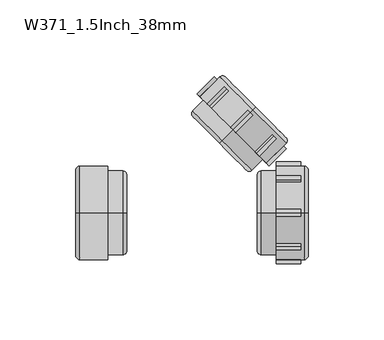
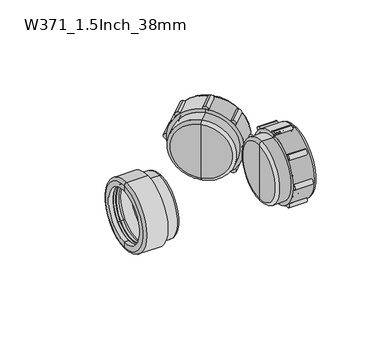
"""IFC4 building model written with IfcOpenShell, lengths in millimetres: pipe fitting geometry, Durapipe_PipeFitting_VulcatheneMechanical_SingleWye_W37 : W371_1.5Inch_38mm."""

from ifc_helpers import new_model, si_unit, point, frame, frame_2d, origin, place, context, project, spatial, polyline, circle_curve, ellipse_curve, trimmed, segment, composite_curve, outline, extrude, source, transform, mapped, element, save
from ifc_brep_helpers import plane_surface, cylinder_surface, revolved_surface, advanced_brep


def w371_1_5inch_38mm_248ea1dd(model_context):
    return source(origin(), model_context, "Body", "SolidModel", [
        advanced_brep(
        [(79.6180374, 53.3180374, -18.5969083), (78.5680374, 54.3680374, -17.1119841), (54.3680374, 78.5680374, 17.1119841), (53.3180374, 79.6180374, 18.5969083), (75.8825035, 49.9825035, -18.3140656), (49.9825035, 75.8825035, 18.3140656), (74.6718434, 49.0718434, -18.1019336), (75.7325035, 50.1325035, -18.1019336), (50.1325035, 75.7325035, 18.1019336), (49.0718434, 74.6718434, 18.1019336), (49.7718434, 73.9718434, 17.1119841), (73.9718434, 49.7718434, -17.1119841), (51.1860569, 75.3860569, 17.1119841), (75.3860569, 51.1860569, -17.1119841), (51.5860569, 74.9860569, 16.5462987), (74.9860569, 51.5860569, -16.5462987), (77.0124025, 52.8124025, -17.1119841), (76.6124025, 53.2124025, -16.5462987), (53.2124025, 76.6124025, 16.5462987), (52.8124025, 77.0124025, 17.1119841)],
        [
            (0, 1),
            (1, 2, circle_curve(frame((66.4680374, 66.4680374, 0.0), z_axis=(-0.7071067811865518, -0.7071067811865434, 0.0), x_axis=(-0.4999999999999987, 0.500000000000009, 0.707106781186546)), 24.2)),
            (2, 3),
            (3, 0, circle_curve(frame((66.4680374, 66.4680374, 0.0), z_axis=(0.7071067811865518, 0.7071067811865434, 0.0), x_axis=(-0.4999999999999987, 0.500000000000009, 0.707106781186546)), 26.3)),
            (2, 1, circle_curve(frame((66.4680374, 66.4680374, 0.0), z_axis=(-0.7071067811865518, -0.7071067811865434, 0.0), x_axis=(-0.4999999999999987, 0.500000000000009, 0.707106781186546)), 24.2)),
            (0, 3, circle_curve(frame((66.4680374, 66.4680374, 0.0), z_axis=(0.7071067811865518, 0.7071067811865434, 0.0), x_axis=(-0.4999999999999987, 0.500000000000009, 0.707106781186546)), 26.3)),
            (4, 0),
            (3, 5),
            (5, 4, circle_curve(frame((62.9325035, 62.9325035, 0.0), z_axis=(0.7071067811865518, 0.7071067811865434, 0.0), x_axis=(-0.4999999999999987, 0.500000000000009, 0.707106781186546)), 25.9)),
            (4, 5, circle_curve(frame((62.9325035, 62.9325035, 0.0), z_axis=(0.7071067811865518, 0.7071067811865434, 0.0), x_axis=(-0.4999999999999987, 0.500000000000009, 0.707106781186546)), 25.9)),
            (6, 7),
            (7, 8, circle_curve(frame((62.9325035, 62.9325035, 0.0), z_axis=(-0.7071067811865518, -0.7071067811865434, 0.0), x_axis=(-0.4999999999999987, 0.500000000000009, 0.707106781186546)), 25.6)),
            (8, 9),
            (9, 6, circle_curve(frame((61.8718434, 61.8718434, 0.0), z_axis=(0.7071067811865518, 0.7071067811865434, 0.0), x_axis=(-0.4999999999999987, 0.500000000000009, 0.707106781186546)), 25.6)),
            (8, 7, circle_curve(frame((62.9325035, 62.9325035, 0.0), z_axis=(-0.7071067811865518, -0.7071067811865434, 0.0), x_axis=(-0.4999999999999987, 0.500000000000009, 0.707106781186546)), 25.6)),
            (6, 9, circle_curve(frame((61.8718434, 61.8718434, 0.0), z_axis=(0.7071067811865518, 0.7071067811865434, 0.0), x_axis=(-0.4999999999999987, 0.500000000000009, 0.707106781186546)), 25.6)),
            (9, 10),
            (10, 11, circle_curve(frame((61.8718434, 61.8718434, 0.0), z_axis=(0.7071067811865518, 0.7071067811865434, 0.0), x_axis=(-0.4999999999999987, 0.500000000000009, 0.707106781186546)), 24.2)),
            (11, 6),
            (11, 10, circle_curve(frame((61.8718434, 61.8718434, 0.0), z_axis=(0.7071067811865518, 0.7071067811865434, 0.0), x_axis=(-0.4999999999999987, 0.500000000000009, 0.707106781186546)), 24.2)),
            (10, 12),
            (12, 13, circle_curve(frame((63.2860569, 63.2860569, 0.0), z_axis=(0.7071067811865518, 0.7071067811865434, 0.0), x_axis=(-0.4999999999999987, 0.500000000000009, 0.707106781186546)), 24.2)),
            (13, 11),
            (13, 12, circle_curve(frame((63.2860569, 63.2860569, 0.0), z_axis=(0.7071067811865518, 0.7071067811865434, 0.0), x_axis=(-0.4999999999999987, 0.500000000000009, 0.707106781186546)), 24.2)),
            (12, 14),
            (14, 15, circle_curve(frame((63.2860569, 63.2860569, 0.0), z_axis=(0.7071067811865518, 0.7071067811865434, 0.0), x_axis=(-0.4999999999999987, 0.500000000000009, 0.707106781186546)), 23.4)),
            (15, 13),
            (15, 14, circle_curve(frame((63.2860569, 63.2860569, 0.0), z_axis=(0.7071067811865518, 0.7071067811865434, 0.0), x_axis=(-0.4999999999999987, 0.500000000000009, 0.707106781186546)), 23.4)),
            (16, 17),
            (17, 18, circle_curve(frame((64.9124025, 64.9124025, 0.0), z_axis=(-0.7071067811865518, -0.7071067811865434, 0.0), x_axis=(-0.4999999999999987, 0.500000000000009, 0.707106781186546)), 23.4)),
            (18, 19),
            (19, 16, circle_curve(frame((64.9124025, 64.9124025, 0.0), z_axis=(0.7071067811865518, 0.7071067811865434, 0.0), x_axis=(-0.4999999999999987, 0.500000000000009, 0.707106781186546)), 24.2)),
            (18, 17, circle_curve(frame((64.9124025, 64.9124025, 0.0), z_axis=(-0.7071067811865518, -0.7071067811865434, 0.0), x_axis=(-0.4999999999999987, 0.500000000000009, 0.707106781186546)), 23.4)),
            (16, 19, circle_curve(frame((64.9124025, 64.9124025, 0.0), z_axis=(0.7071067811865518, 0.7071067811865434, 0.0), x_axis=(-0.4999999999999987, 0.500000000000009, 0.707106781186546)), 24.2)),
            (1, 16),
            (19, 2),
            (14, 18),
            (17, 15),
            (5, 8),
            (7, 4),
        ],
        [
            plane_surface(frame((66.4680374, 66.4680374, 0.0), z_axis=(0.7071067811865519, 0.7071067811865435, 0.0), x_axis=(-0.4999999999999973, 0.5000000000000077, 0.7071067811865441))),
            revolved_surface(polyline([(53.3180374, 79.6180374, 18.5969083), (49.9825035, 75.8825035, 18.3140656)]), (70.0035713, 70.0035713, 0.0), (-0.7071067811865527, -0.7071067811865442, 0.0)),
            cylinder_surface(frame((60.4076687, 60.4076687, 0.0), z_axis=(-0.7071067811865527, -0.7071067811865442, 0.0), x_axis=(-0.4999999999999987, 0.500000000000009, 0.707106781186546)), 25.6),
            plane_surface(frame((61.8718434, 61.8718434, 0.0), z_axis=(-0.7071067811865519, -0.7071067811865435, 0.0), x_axis=(-0.4999999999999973, 0.5000000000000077, 0.7071067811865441))),
            revolved_surface(polyline([(49.77184339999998, 73.97184340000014, 17.111984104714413), (51.18605690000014, 75.38605690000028, 17.111984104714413)]), (59.4019258, 59.4019258, 0.0), (-0.7071067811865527, -0.7071067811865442, 0.0)),
            plane_surface(frame((63.2860569, 63.2860569, 0.0), z_axis=(-0.7071067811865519, -0.7071067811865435, 0.0), x_axis=(-0.4999999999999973, 0.5000000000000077, 0.7071067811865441))),
            plane_surface(frame((64.9124025, 64.9124025, 0.0), z_axis=(0.7071067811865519, 0.7071067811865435, 0.0), x_axis=(-0.4999999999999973, 0.5000000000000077, 0.7071067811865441))),
            revolved_surface(polyline([(52.81240249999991, 77.01240250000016, 17.111984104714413), (54.36803740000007, 78.5680374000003, 17.111984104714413)]), (70.0035713, 70.0035713, 0.0), (-0.7071067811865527, -0.7071067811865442, 0.0)),
            revolved_surface(polyline([(51.586056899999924, 74.98605690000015, 16.546298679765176), (53.21240250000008, 76.61240250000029, 16.546298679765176)]), (67.5755027, 67.5755027, 0.0), (-0.7071067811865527, -0.7071067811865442, 0.0)),
            plane_surface(frame((62.9325035, 62.9325035, 0.0), z_axis=(-0.7071067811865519, -0.7071067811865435, 0.0), x_axis=(-0.4999999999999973, 0.5000000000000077, 0.7071067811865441))),
        ],
        [
            (0, [[1, 2, 3, 4]]),
            (0, [[5, -1, 6, -3]]),
            (1, [[7, -4, 8, 9]]),
            (1, [[-8, -6, -7, 10]]),
            (2, [[11, 12, 13, 14]]),
            (2, [[15, -11, 16, -13]]),
            (3, [[17, 18, 19, -14]]),
            (3, [[-19, 20, -17, -16]]),
            (4, [[-18, 21, 22, 23]]),
            (4, [[24, -21, -20, -23]]),
            (5, [[25, 26, 27, -22]]),
            (5, [[-27, 28, -25, -24]]),
            (6, [[29, 30, 31, 32]]),
            (6, [[-31, 33, -29, 34]]),
            (7, [[35, -32, 36, -2]]),
            (7, [[-36, -34, -35, -5]]),
            (8, [[-26, 37, -30, 38]]),
            (8, [[-33, -37, -28, -38]]),
            (9, [[39, -12, 40, -9]]),
            (9, [[-40, -15, -39, -10]]),
        ],
    ),
        advanced_brep(
        [(54.6593542, 54.6593542, -31.0), (67.670119, 67.670119, -31.0), (67.670119, 67.670119, 31.0), (54.6593542, 54.6593542, 31.0), (54.6593542, 54.6593542, -27.7), (54.6593542, 54.6593542, 27.7), (69.4378859, 69.4378859, -28.5), (69.4378859, 69.4378859, -24.0), (69.4378859, 69.4378859, 24.0), (69.4378859, 69.4378859, 28.5), (66.4680374, 66.4680374, -26.0), (54.6593542, 54.6593542, -26.0), (54.6593542, 54.6593542, 26.0), (66.4680374, 66.4680374, 26.0), (66.4680374, 66.4680374, -24.0), (66.4680374, 66.4680374, 24.0), (47.5175757, 47.5175757, -27.7), (47.5175757, 47.5175757, 27.7), (45.7498087, 45.7498087, -25.2), (45.7498087, 45.7498087, 25.2), (45.7498087, 45.7498087, 0.0), (54.6593542, 54.6593542, 0.0)],
        [
            (0, 1),
            (1, 2, circle_curve(frame((67.670119, 67.670119, 0.0), z_axis=(-0.7071067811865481, -0.707106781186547, 0.0), x_axis=(0.0, 0.0, 1.0000000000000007)), 31.0)),
            (2, 3),
            (3, 0, circle_curve(frame((54.6593542, 54.6593542, 0.0), z_axis=(0.7071067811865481, 0.707106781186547, 0.0), x_axis=(0.0, 0.0, 1.0000000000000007)), 31.0)),
            (2, 1, circle_curve(frame((67.670119, 67.670119, 0.0), z_axis=(-0.7071067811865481, -0.707106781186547, 0.0), x_axis=(0.0, 0.0, 1.0000000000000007)), 31.0)),
            (0, 3, circle_curve(frame((54.6593542, 54.6593542, 0.0), z_axis=(0.7071067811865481, 0.707106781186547, 0.0), x_axis=(0.0, 0.0, 1.0000000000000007)), 31.0)),
            (4, 0),
            (3, 5),
            (5, 4, circle_curve(frame((54.6593542, 54.6593542, 0.0), z_axis=(0.7071067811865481, 0.707106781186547, 0.0), x_axis=(0.0, 0.0, 1.0000000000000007)), 27.7)),
            (4, 5, circle_curve(frame((54.6593542, 54.6593542, 0.0), z_axis=(0.7071067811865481, 0.707106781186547, 0.0), x_axis=(0.0, 0.0, 1.0000000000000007)), 27.7)),
            (6, 7),
            (7, 8, circle_curve(frame((69.4378859, 69.4378859, 0.0), z_axis=(-0.7071067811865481, -0.707106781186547, 0.0), x_axis=(0.0, 0.0, 1.0000000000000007)), 24.0)),
            (8, 9),
            (9, 6, circle_curve(frame((69.4378859, 69.4378859, 0.0), z_axis=(0.7071067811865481, 0.707106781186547, 0.0), x_axis=(0.0, 0.0, 1.0000000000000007)), 28.5)),
            (8, 7, circle_curve(frame((69.4378859, 69.4378859, 0.0), z_axis=(-0.7071067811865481, -0.707106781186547, 0.0), x_axis=(0.0, 0.0, 1.0000000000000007)), 24.0)),
            (6, 9, circle_curve(frame((69.4378859, 69.4378859, 0.0), z_axis=(0.7071067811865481, 0.707106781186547, 0.0), x_axis=(0.0, 0.0, 1.0000000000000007)), 28.5)),
            (1, 6, circle_curve(frame((67.670119, 67.670119, -28.5), z_axis=(0.7071067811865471, -0.7071067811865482, 0.0), x_axis=(0.7071067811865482, 0.7071067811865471, 0.0)), 2.5)),
            (9, 2, circle_curve(frame((67.670119, 67.670119, 28.5), z_axis=(0.7071067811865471, -0.7071067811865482, 0.0), x_axis=(0.7071067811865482, 0.7071067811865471, 0.0)), 2.5)),
            (10, 11),
            (11, 12, circle_curve(frame((54.6593542, 54.6593542, 0.0), z_axis=(-0.7071067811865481, -0.707106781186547, 0.0), x_axis=(0.0, 0.0, 1.0000000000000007)), 26.0)),
            (12, 13),
            (13, 10, circle_curve(frame((66.4680374, 66.4680374, 0.0), z_axis=(0.7071067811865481, 0.707106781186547, 0.0), x_axis=(0.0, 0.0, 1.0000000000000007)), 26.0)),
            (12, 11, circle_curve(frame((54.6593542, 54.6593542, 0.0), z_axis=(-0.7071067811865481, -0.707106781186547, 0.0), x_axis=(0.0, 0.0, 1.0000000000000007)), 26.0)),
            (10, 13, circle_curve(frame((66.4680374, 66.4680374, 0.0), z_axis=(0.7071067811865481, 0.707106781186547, 0.0), x_axis=(0.0, 0.0, 1.0000000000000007)), 26.0)),
            (14, 10),
            (13, 15),
            (15, 14, circle_curve(frame((66.4680374, 66.4680374, 0.0), z_axis=(0.7071067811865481, 0.707106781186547, 0.0), x_axis=(0.0, 0.0, 1.0000000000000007)), 24.0)),
            (14, 15, circle_curve(frame((66.4680374, 66.4680374, 0.0), z_axis=(0.7071067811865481, 0.707106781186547, 0.0), x_axis=(0.0, 0.0, 1.0000000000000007)), 24.0)),
            (7, 14),
            (15, 8),
            (16, 4),
            (5, 17),
            (17, 16, circle_curve(frame((47.5175757, 47.5175757, 0.0), z_axis=(0.7071067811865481, 0.707106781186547, 0.0), x_axis=(0.0, 0.0, 1.0000000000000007)), 27.7)),
            (16, 17, circle_curve(frame((47.5175757, 47.5175757, 0.0), z_axis=(0.7071067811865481, 0.707106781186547, 0.0), x_axis=(0.0, 0.0, 1.0000000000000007)), 27.7)),
            (18, 16, circle_curve(frame((47.5175757, 47.5175757, -25.2), z_axis=(0.7071067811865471, -0.7071067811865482, 0.0), x_axis=(0.7071067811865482, 0.7071067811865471, 0.0)), 2.5)),
            (17, 19, circle_curve(frame((47.5175757, 47.5175757, 25.2), z_axis=(0.7071067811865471, -0.7071067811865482, 0.0), x_axis=(0.7071067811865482, 0.7071067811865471, 0.0)), 2.5)),
            (19, 18, circle_curve(frame((45.7498087, 45.7498087, 0.0), z_axis=(0.7071067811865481, 0.707106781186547, 0.0), x_axis=(0.0, 0.0, 1.0000000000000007)), 25.2)),
            (18, 19, circle_curve(frame((45.7498087, 45.7498087, 0.0), z_axis=(0.7071067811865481, 0.707106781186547, 0.0), x_axis=(0.0, 0.0, 1.0000000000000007)), 25.2)),
            (20, 18),
            (19, 20),
            (11, 21),
            (21, 12),
        ],
        [
            cylinder_surface(frame((1173.0914358, 1173.0914358, 0.0), z_axis=(-0.7071067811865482, -0.7071067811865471, 0.0), x_axis=(0.0, 0.0, 1.0000000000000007)), 31.0),
            plane_surface(frame((54.6593542, 54.6593542, 0.0), z_axis=(-0.7071067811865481, -0.707106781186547, 0.0), x_axis=(0.0, 0.0, 1.0))),
            plane_surface(frame((69.4378859, 69.4378859, 0.0), z_axis=(0.7071067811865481, 0.707106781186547, 0.0), x_axis=(0.0, 0.0, 1.0))),
            revolved_surface(trimmed(ellipse_curve(frame((67.670119, 67.670119, 28.5), z_axis=(0.7071067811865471, -0.7071067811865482, 0.0), x_axis=(0.7071067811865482, 0.7071067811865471, 0.0)), 2.5, 2.5), [point((69.4378859, 69.4378859, 28.5))], [point((67.670119, 67.670119, 31.0))], True, "CARTESIAN"), (1173.0914358, 1173.0914358, 0.0), (-0.7071067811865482, -0.7071067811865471, 0.0)),
            revolved_surface(polyline([(54.65935419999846, 54.65935420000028, 26.000000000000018), (66.4680373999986, 66.46803740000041, 26.000000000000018)]), (1173.0914358, 1173.0914358, 0.0), (-0.7071067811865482, -0.7071067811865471, 0.0)),
            plane_surface(frame((66.4680374, 66.4680374, 0.0), z_axis=(-0.7071067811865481, -0.707106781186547, 0.0), x_axis=(0.0, 0.0, 1.0))),
            revolved_surface(polyline([(66.4680373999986, 66.46803740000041, 24.000000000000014), (69.43788589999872, 69.43788590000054, 24.000000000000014)]), (1173.0914358, 1173.0914358, 0.0), (-0.7071067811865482, -0.7071067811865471, 0.0)),
            cylinder_surface(frame((1173.0914358, 1173.0914358, 0.0), z_axis=(-0.7071067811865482, -0.7071067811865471, 0.0), x_axis=(0.0, 0.0, 1.0000000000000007)), 27.7),
            revolved_surface(trimmed(ellipse_curve(frame((47.5175757, 47.5175757, 25.2), z_axis=(0.7071067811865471, -0.7071067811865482, 0.0), x_axis=(0.7071067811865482, 0.7071067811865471, 0.0)), 2.5, 2.5), [point((47.5175757, 47.5175757, 27.7))], [point((45.7498087, 45.7498087, 25.2))], True, "CARTESIAN"), (1173.0914358, 1173.0914358, 0.0), (-0.7071067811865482, -0.7071067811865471, 0.0)),
            plane_surface(frame((45.7498087, 45.7498087, 0.0), z_axis=(-0.7071067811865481, -0.707106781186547, 0.0), x_axis=(0.0, 0.0, 1.0))),
            plane_surface(frame((54.6593542, 54.6593542, 0.0), z_axis=(0.7071067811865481, 0.707106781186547, 0.0), x_axis=(0.0, 0.0, 1.0))),
        ],
        [
            (0, [[1, 2, 3, 4]]),
            (0, [[-3, 5, -1, 6]]),
            (1, [[7, -4, 8, 9]]),
            (1, [[-8, -6, -7, 10]]),
            (2, [[11, 12, 13, 14]]),
            (2, [[-13, 15, -11, 16]]),
            (3, [[17, -14, 18, -2]]),
            (3, [[-18, -16, -17, -5]]),
            (4, [[19, 20, 21, 22]]),
            (4, [[-21, 23, -19, 24]]),
            (5, [[25, -22, 26, 27]]),
            (5, [[-26, -24, -25, 28]]),
            (6, [[29, -27, 30, -12]]),
            (6, [[-30, -28, -29, -15]]),
            (7, [[31, -9, 32, 33]]),
            (7, [[-32, -10, -31, 34]]),
            (8, [[35, -33, 36, 37]]),
            (8, [[-36, -34, -35, 38]]),
            (9, [[39, -37, 40]]),
            (9, [[-40, -38, -39]]),
            (10, [[41, 42, -20]]),
            (10, [[-42, -41, -23]]),
        ],
    ),
        extrude(outline(composite_curve([segment(trimmed(circle_curve(frame_2d((0.0, 2.5)), 2.5), [point((0.0, 5.0))], [point((0.0, 0.0))], False, "CARTESIAN"), True, "CONTINUOUS"), segment(trimmed(circle_curve(frame_2d((0.0, 2.5)), 2.5), [point((0.0, 0.0))], [point((0.0, 5.0))], False, "CARTESIAN"), True, "CONTINUOUS")], self_intersect=False)), frame((32.739044, 76.5796644, 2.5), z_axis=(0.7071067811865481, 0.707106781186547, 0.0), x_axis=(0.707106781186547, -0.7071067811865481, 0.0)), (0.0, 0.0, 1.0), 15.9),
        extrude(outline(composite_curve([segment(trimmed(circle_curve(frame_2d((9.0796898, -19.4203102)), 2.5), [point((9.0796898, -16.9203102))], [point((9.0796898, -21.9203102))], False, "CARTESIAN"), True, "CONTINUOUS"), segment(trimmed(circle_curve(frame_2d((9.0796898, -19.4203102)), 2.5), [point((9.0796898, -21.9203102))], [point((9.0796898, -16.9203102))], False, "CARTESIAN"), True, "CONTINUOUS")], self_intersect=False)), frame((32.739044, 76.5796644, 2.5), z_axis=(0.7071067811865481, 0.707106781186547, 0.0), x_axis=(0.707106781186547, -0.7071067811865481, 0.0)), (0.0, 0.0, 1.0), 15.9),
        extrude(outline(composite_curve([segment(trimmed(circle_curve(frame_2d((31.0, -28.5)), 2.5), [point((31.0, -26.0))], [point((31.0, -31.0))], False, "CARTESIAN"), True, "CONTINUOUS"), segment(trimmed(circle_curve(frame_2d((31.0, -28.5)), 2.5), [point((31.0, -31.0))], [point((31.0, -26.0))], False, "CARTESIAN"), True, "CONTINUOUS")], self_intersect=False)), frame((32.739044, 76.5796644, 2.5), z_axis=(0.7071067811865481, 0.707106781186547, 0.0), x_axis=(0.707106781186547, -0.7071067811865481, 0.0)), (0.0, 0.0, 1.0), 15.9),
        extrude(outline(composite_curve([segment(trimmed(circle_curve(frame_2d((52.9203102, -19.4203102)), 2.5), [point((52.9203102, -16.9203102))], [point((52.9203102, -21.9203102))], False, "CARTESIAN"), True, "CONTINUOUS"), segment(trimmed(circle_curve(frame_2d((52.9203102, -19.4203102)), 2.5), [point((52.9203102, -21.9203102))], [point((52.9203102, -16.9203102))], False, "CARTESIAN"), True, "CONTINUOUS")], self_intersect=False)), frame((32.739044, 76.5796644, 2.5), z_axis=(0.7071067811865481, 0.707106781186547, 0.0), x_axis=(0.707106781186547, -0.7071067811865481, 0.0)), (0.0, 0.0, 1.0), 15.9),
        extrude(outline(composite_curve([segment(trimmed(circle_curve(frame_2d((62.0, 2.5)), 2.5), [point((62.0, 5.0))], [point((62.0, 0.0))], False, "CARTESIAN"), True, "CONTINUOUS"), segment(trimmed(circle_curve(frame_2d((62.0, 2.5)), 2.5), [point((62.0, 0.0))], [point((62.0, 5.0))], False, "CARTESIAN"), True, "CONTINUOUS")], self_intersect=False)), frame((32.739044, 76.5796644, 2.5), z_axis=(0.7071067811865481, 0.707106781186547, 0.0), x_axis=(0.707106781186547, -0.7071067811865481, 0.0)), (0.0, 0.0, 1.0), 15.9),
        extrude(outline(composite_curve([segment(trimmed(circle_curve(frame_2d((52.9203102, 24.4203102)), 2.5), [point((52.9203102, 26.9203102))], [point((52.9203102, 21.9203102))], False, "CARTESIAN"), True, "CONTINUOUS"), segment(trimmed(circle_curve(frame_2d((52.9203102, 24.4203102)), 2.5), [point((52.9203102, 21.9203102))], [point((52.9203102, 26.9203102))], False, "CARTESIAN"), True, "CONTINUOUS")], self_intersect=False)), frame((32.739044, 76.5796644, 2.5), z_axis=(0.7071067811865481, 0.707106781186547, 0.0), x_axis=(0.707106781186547, -0.7071067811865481, 0.0)), (0.0, 0.0, 1.0), 15.9),
        extrude(outline(composite_curve([segment(trimmed(circle_curve(frame_2d((31.0, 33.5)), 2.5), [point((31.0, 36.0))], [point((31.0, 31.0))], False, "CARTESIAN"), True, "CONTINUOUS"), segment(trimmed(circle_curve(frame_2d((31.0, 33.5)), 2.5), [point((31.0, 31.0))], [point((31.0, 36.0))], False, "CARTESIAN"), True, "CONTINUOUS")], self_intersect=False)), frame((32.739044, 76.5796644, 2.5), z_axis=(0.7071067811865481, 0.707106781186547, 0.0), x_axis=(0.707106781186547, -0.7071067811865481, 0.0)), (0.0, 0.0, 1.0), 15.9),
        extrude(outline(composite_curve([segment(trimmed(circle_curve(frame_2d((9.0796898, 24.4203102)), 2.5), [point((9.0796898, 26.9203102))], [point((9.0796898, 21.9203102))], False, "CARTESIAN"), True, "CONTINUOUS"), segment(trimmed(circle_curve(frame_2d((9.0796898, 24.4203102)), 2.5), [point((9.0796898, 21.9203102))], [point((9.0796898, 26.9203102))], False, "CARTESIAN"), True, "CONTINUOUS")], self_intersect=False)), frame((32.739044, 76.5796644, 2.5), z_axis=(0.7071067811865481, 0.707106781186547, 0.0), x_axis=(0.707106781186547, -0.7071067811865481, 0.0)), (0.0, 0.0, 1.0), 15.9),
        advanced_brep(
        [(99.8, 18.5969083, 18.5969083), (99.8, 17.1119841, 17.1119841), (99.8, -17.1119841, -17.1119841), (99.8, -18.5969083, -18.5969083), (94.8, 18.3140656, 18.3140656), (94.8, -18.3140656, -18.3140656), (93.3, 18.1019336, 18.1019336), (94.8, 18.1019336, 18.1019336), (94.8, -18.1019336, -18.1019336), (93.3, -18.1019336, -18.1019336), (93.3, -17.1119841, -17.1119841), (93.3, 17.1119841, 17.1119841), (95.3, -17.1119841, -17.1119841), (95.3, 17.1119841, 17.1119841), (95.3, -16.5462987, -16.5462987), (95.3, 16.5462987, 16.5462987), (97.6, 17.1119841, 17.1119841), (97.6, 16.5462987, 16.5462987), (97.6, -16.5462987, -16.5462987), (97.6, -17.1119841, -17.1119841)],
        [
            (0, 1),
            (1, 2, circle_curve(frame((99.8, 0.0, 0.0), z_axis=(-1.0, 0.0, 0.0), x_axis=(0.0, -0.7071067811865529, -0.7071067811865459)), 24.2)),
            (2, 3),
            (3, 0, circle_curve(frame((99.8, 0.0, 0.0), z_axis=(1.0, 0.0, 0.0), x_axis=(0.0, -0.7071067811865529, -0.7071067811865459)), 26.3)),
            (2, 1, circle_curve(frame((99.8, 0.0, 0.0), z_axis=(-1.0, 0.0, 0.0), x_axis=(0.0, -0.7071067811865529, -0.7071067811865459)), 24.2)),
            (0, 3, circle_curve(frame((99.8, 0.0, 0.0), z_axis=(1.0, 0.0, 0.0), x_axis=(0.0, -0.7071067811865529, -0.7071067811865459)), 26.3)),
            (4, 0),
            (3, 5),
            (5, 4, circle_curve(frame((94.8, 0.0, 0.0), z_axis=(1.0, 0.0, 0.0), x_axis=(0.0, -0.7071067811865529, -0.7071067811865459)), 25.9)),
            (4, 5, circle_curve(frame((94.8, 0.0, 0.0), z_axis=(1.0, 0.0, 0.0), x_axis=(0.0, -0.7071067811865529, -0.7071067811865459)), 25.9)),
            (6, 7),
            (7, 8, circle_curve(frame((94.8, 0.0, 0.0), z_axis=(-1.0, 0.0, 0.0), x_axis=(0.0, -0.7071067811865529, -0.7071067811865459)), 25.6)),
            (8, 9),
            (9, 6, circle_curve(frame((93.3, 0.0, 0.0), z_axis=(1.0, 0.0, 0.0), x_axis=(0.0, -0.7071067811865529, -0.7071067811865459)), 25.6)),
            (8, 7, circle_curve(frame((94.8, 0.0, 0.0), z_axis=(-1.0, 0.0, 0.0), x_axis=(0.0, -0.7071067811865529, -0.7071067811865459)), 25.6)),
            (6, 9, circle_curve(frame((93.3, 0.0, 0.0), z_axis=(1.0, 0.0, 0.0), x_axis=(0.0, -0.7071067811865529, -0.7071067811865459)), 25.6)),
            (9, 10),
            (10, 11, circle_curve(frame((93.3, 0.0, 0.0), z_axis=(1.0, 0.0, 0.0), x_axis=(0.0, -0.7071067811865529, -0.7071067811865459)), 24.2)),
            (11, 6),
            (11, 10, circle_curve(frame((93.3, 0.0, 0.0), z_axis=(1.0, 0.0, 0.0), x_axis=(0.0, -0.7071067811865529, -0.7071067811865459)), 24.2)),
            (10, 12),
            (12, 13, circle_curve(frame((95.3, 0.0, 0.0), z_axis=(1.0, 0.0, 0.0), x_axis=(0.0, -0.7071067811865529, -0.7071067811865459)), 24.2)),
            (13, 11),
            (13, 12, circle_curve(frame((95.3, 0.0, 0.0), z_axis=(1.0, 0.0, 0.0), x_axis=(0.0, -0.7071067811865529, -0.7071067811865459)), 24.2)),
            (12, 14),
            (14, 15, circle_curve(frame((95.3, 0.0, 0.0), z_axis=(1.0, 0.0, 0.0), x_axis=(0.0, -0.7071067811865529, -0.7071067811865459)), 23.4)),
            (15, 13),
            (15, 14, circle_curve(frame((95.3, 0.0, 0.0), z_axis=(1.0, 0.0, 0.0), x_axis=(0.0, -0.7071067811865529, -0.7071067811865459)), 23.4)),
            (16, 17),
            (17, 18, circle_curve(frame((97.6, 0.0, 0.0), z_axis=(-1.0, 0.0, 0.0), x_axis=(0.0, -0.7071067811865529, -0.7071067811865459)), 23.4)),
            (18, 19),
            (19, 16, circle_curve(frame((97.6, 0.0, 0.0), z_axis=(1.0, 0.0, 0.0), x_axis=(0.0, -0.7071067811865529, -0.7071067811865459)), 24.2)),
            (18, 17, circle_curve(frame((97.6, 0.0, 0.0), z_axis=(-1.0, 0.0, 0.0), x_axis=(0.0, -0.7071067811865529, -0.7071067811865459)), 23.4)),
            (16, 19, circle_curve(frame((97.6, 0.0, 0.0), z_axis=(1.0, 0.0, 0.0), x_axis=(0.0, -0.7071067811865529, -0.7071067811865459)), 24.2)),
            (1, 16),
            (19, 2),
            (14, 18),
            (17, 15),
            (5, 8),
            (7, 4),
        ],
        [
            plane_surface(frame((99.8, 0.0, 0.0), z_axis=(1.0, 0.0, 0.0), x_axis=(0.0, -0.707106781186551, -0.707106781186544))),
            revolved_surface(polyline([(99.8, -18.5969083, -18.5969083), (94.8, -18.3140656, -18.3140656)]), (104.8, 0.0, 0.0), (-1.0000000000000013, 0.0, 0.0)),
            cylinder_surface(frame((91.2293443, 0.0, 0.0), z_axis=(-1.0000000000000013, 0.0, 0.0), x_axis=(0.0, -0.7071067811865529, -0.7071067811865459)), 25.6),
            plane_surface(frame((93.3, 0.0, 0.0), z_axis=(-1.0, 0.0, 0.0), x_axis=(0.0, -0.707106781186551, -0.707106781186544))),
            revolved_surface(polyline([(93.30000000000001, -17.11198410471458, -17.11198410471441), (95.30000000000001, -17.11198410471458, -17.11198410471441)]), (89.807009, 0.0, 0.0), (-1.0000000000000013, 0.0, 0.0)),
            plane_surface(frame((95.3, 0.0, 0.0), z_axis=(-1.0, 0.0, 0.0), x_axis=(0.0, -0.707106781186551, -0.707106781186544))),
            plane_surface(frame((97.6, 0.0, 0.0), z_axis=(1.0, 0.0, 0.0), x_axis=(0.0, -0.707106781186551, -0.707106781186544))),
            revolved_surface(polyline([(97.59999999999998, -17.11198410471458, -17.11198410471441), (99.79999999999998, -17.11198410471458, -17.11198410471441)]), (104.8, 0.0, 0.0), (-1.0000000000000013, 0.0, 0.0)),
            revolved_surface(polyline([(95.29999999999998, -16.546298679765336, -16.546298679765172), (97.59999999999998, -16.546298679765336, -16.546298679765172)]), (101.3661924, 0.0, 0.0), (-1.0000000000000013, 0.0, 0.0)),
            plane_surface(frame((94.8, 0.0, 0.0), z_axis=(-1.0, 0.0, 0.0), x_axis=(0.0, -0.707106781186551, -0.707106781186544))),
        ],
        [
            (0, [[1, 2, 3, 4]]),
            (0, [[5, -1, 6, -3]]),
            (1, [[7, -4, 8, 9]]),
            (1, [[-8, -6, -7, 10]]),
            (2, [[11, 12, 13, 14]]),
            (2, [[15, -11, 16, -13]]),
            (3, [[17, 18, 19, -14]]),
            (3, [[-19, 20, -17, -16]]),
            (4, [[-18, 21, 22, 23]]),
            (4, [[24, -21, -20, -23]]),
            (5, [[25, 26, 27, -22]]),
            (5, [[-27, 28, -25, -24]]),
            (6, [[29, 30, 31, 32]]),
            (6, [[-31, 33, -29, 34]]),
            (7, [[35, -32, 36, -2]]),
            (7, [[-36, -34, -35, -5]]),
            (8, [[-26, 37, -30, 38]]),
            (8, [[-33, -37, -28, -38]]),
            (9, [[39, -12, 40, -9]]),
            (9, [[-40, -15, -39, -10]]),
        ],
    ),
        advanced_brep(
        [(83.1, 0.0, 31.0), (101.5, 0.0, 31.0), (101.5, 0.0, -31.0), (83.1, 0.0, -31.0), (83.1, 0.0, 27.7), (83.1, 0.0, -27.7), (104.0, 0.0, 28.5), (104.0, 0.0, 24.0), (104.0, 0.0, -24.0), (104.0, 0.0, -28.5), (99.8, 0.0, 26.0), (83.1, 0.0, 26.0), (83.1, 0.0, -26.0), (99.8, 0.0, -26.0), (99.8, 0.0, 24.0), (99.8, 0.0, -24.0), (73.0, 0.0, 27.7), (73.0, 0.0, -27.7), (70.5, 0.0, 25.2), (70.5, 0.0, -25.2), (70.5, 0.0, 0.0), (83.1, 0.0, 0.0)],
        [
            (0, 1),
            (1, 2, circle_curve(frame((101.5, 0.0, 0.0), z_axis=(-1.0, 0.0, 0.0), x_axis=(0.0, 0.0, -1.0000000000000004)), 31.0)),
            (2, 3),
            (3, 0, circle_curve(frame((83.1, 0.0, 0.0), z_axis=(1.0, 0.0, 0.0), x_axis=(0.0, 0.0, -1.0000000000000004)), 31.0)),
            (2, 1, circle_curve(frame((101.5, 0.0, 0.0), z_axis=(-1.0, 0.0, 0.0), x_axis=(0.0, 0.0, -1.0000000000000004)), 31.0)),
            (0, 3, circle_curve(frame((83.1, 0.0, 0.0), z_axis=(1.0, 0.0, 0.0), x_axis=(0.0, 0.0, -1.0000000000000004)), 31.0)),
            (4, 0),
            (3, 5),
            (5, 4, circle_curve(frame((83.1, 0.0, 0.0), z_axis=(1.0, 0.0, 0.0), x_axis=(0.0, 0.0, -1.0000000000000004)), 27.7)),
            (4, 5, circle_curve(frame((83.1, 0.0, 0.0), z_axis=(1.0, 0.0, 0.0), x_axis=(0.0, 0.0, -1.0000000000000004)), 27.7)),
            (6, 7),
            (7, 8, circle_curve(frame((104.0, 0.0, 0.0), z_axis=(-1.0, 0.0, 0.0), x_axis=(0.0, 0.0, -1.0000000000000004)), 24.0)),
            (8, 9),
            (9, 6, circle_curve(frame((104.0, 0.0, 0.0), z_axis=(1.0, 0.0, 0.0), x_axis=(0.0, 0.0, -1.0000000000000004)), 28.5)),
            (8, 7, circle_curve(frame((104.0, 0.0, 0.0), z_axis=(-1.0, 0.0, 0.0), x_axis=(0.0, 0.0, -1.0000000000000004)), 24.0)),
            (6, 9, circle_curve(frame((104.0, 0.0, 0.0), z_axis=(1.0, 0.0, 0.0), x_axis=(0.0, 0.0, -1.0000000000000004)), 28.5)),
            (1, 6, circle_curve(frame((101.5, 0.0, 28.5), z_axis=(0.0, 1.0000000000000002, 0.0), x_axis=(1.0000000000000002, 0.0, 0.0)), 2.5)),
            (9, 2, circle_curve(frame((101.5, 0.0, -28.5), z_axis=(0.0, 1.0000000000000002, 0.0), x_axis=(1.0000000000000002, 0.0, 0.0)), 2.5)),
            (10, 11),
            (11, 12, circle_curve(frame((83.1, 0.0, 0.0), z_axis=(-1.0, 0.0, 0.0), x_axis=(0.0, 0.0, -1.0000000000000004)), 26.0)),
            (12, 13),
            (13, 10, circle_curve(frame((99.8, 0.0, 0.0), z_axis=(1.0, 0.0, 0.0), x_axis=(0.0, 0.0, -1.0000000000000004)), 26.0)),
            (12, 11, circle_curve(frame((83.1, 0.0, 0.0), z_axis=(-1.0, 0.0, 0.0), x_axis=(0.0, 0.0, -1.0000000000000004)), 26.0)),
            (10, 13, circle_curve(frame((99.8, 0.0, 0.0), z_axis=(1.0, 0.0, 0.0), x_axis=(0.0, 0.0, -1.0000000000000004)), 26.0)),
            (14, 10),
            (13, 15),
            (15, 14, circle_curve(frame((99.8, 0.0, 0.0), z_axis=(1.0, 0.0, 0.0), x_axis=(0.0, 0.0, -1.0000000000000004)), 24.0)),
            (14, 15, circle_curve(frame((99.8, 0.0, 0.0), z_axis=(1.0, 0.0, 0.0), x_axis=(0.0, 0.0, -1.0000000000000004)), 24.0)),
            (7, 14),
            (15, 8),
            (16, 4),
            (5, 17),
            (17, 16, circle_curve(frame((73.0, 0.0, 0.0), z_axis=(1.0, 0.0, 0.0), x_axis=(0.0, 0.0, -1.0000000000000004)), 27.7)),
            (16, 17, circle_curve(frame((73.0, 0.0, 0.0), z_axis=(1.0, 0.0, 0.0), x_axis=(0.0, 0.0, -1.0000000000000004)), 27.7)),
            (18, 16, circle_curve(frame((73.0, 0.0, 25.2), z_axis=(0.0, 1.0000000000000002, 0.0), x_axis=(1.0000000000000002, 0.0, 0.0)), 2.5)),
            (17, 19, circle_curve(frame((73.0, 0.0, -25.2), z_axis=(0.0, 1.0000000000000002, 0.0), x_axis=(1.0000000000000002, 0.0, 0.0)), 2.5)),
            (19, 18, circle_curve(frame((70.5, 0.0, 0.0), z_axis=(1.0, 0.0, 0.0), x_axis=(0.0, 0.0, -1.0000000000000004)), 25.2)),
            (18, 19, circle_curve(frame((70.5, 0.0, 0.0), z_axis=(1.0, 0.0, 0.0), x_axis=(0.0, 0.0, -1.0000000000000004)), 25.2)),
            (20, 18),
            (19, 20),
            (11, 21),
            (21, 12),
        ],
        [
            cylinder_surface(frame((1664.8018184, 0.0, 0.0), z_axis=(-1.0000000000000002, 0.0, 0.0), x_axis=(0.0, 0.0, -1.0000000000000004)), 31.0),
            plane_surface(frame((83.1, 0.0, 0.0), z_axis=(-1.0, 0.0, 0.0), x_axis=(0.0, 0.0, -1.0))),
            plane_surface(frame((104.0, 0.0, 0.0), z_axis=(1.0, 0.0, 0.0), x_axis=(0.0, 0.0, -1.0))),
            revolved_surface(trimmed(ellipse_curve(frame((101.5, 0.0, -28.5), z_axis=(0.0, 1.0000000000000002, 0.0), x_axis=(1.0000000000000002, 0.0, 0.0)), 2.5, 2.5), [point((104.0, 0.0, -28.5))], [point((101.5, 0.0, -31.0))], True, "CARTESIAN"), (1664.8018184, 0.0, 0.0), (-1.0000000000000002, 0.0, 0.0)),
            revolved_surface(polyline([(83.099999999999, 0.0, -26.00000000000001), (99.79999999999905, 0.0, -26.00000000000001)]), (1664.8018184, 0.0, 0.0), (-1.0000000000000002, 0.0, 0.0)),
            plane_surface(frame((99.8, 0.0, 0.0), z_axis=(-1.0, 0.0, 0.0), x_axis=(0.0, 0.0, -1.0))),
            revolved_surface(polyline([(99.79999999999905, 0.0, -24.00000000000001), (103.99999999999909, 0.0, -24.00000000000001)]), (1664.8018184, 0.0, 0.0), (-1.0000000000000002, 0.0, 0.0)),
            cylinder_surface(frame((1664.8018184, 0.0, 0.0), z_axis=(-1.0000000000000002, 0.0, 0.0), x_axis=(0.0, 0.0, -1.0000000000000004)), 27.7),
            revolved_surface(trimmed(ellipse_curve(frame((73.0, 0.0, -25.2), z_axis=(0.0, 1.0000000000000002, 0.0), x_axis=(1.0000000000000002, 0.0, 0.0)), 2.5, 2.5), [point((73.0, 0.0, -27.7))], [point((70.5, 0.0, -25.2))], True, "CARTESIAN"), (1664.8018184, 0.0, 0.0), (-1.0000000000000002, 0.0, 0.0)),
            plane_surface(frame((70.5, 0.0, 0.0), z_axis=(-1.0, 0.0, 0.0), x_axis=(0.0, 0.0, -1.0))),
            plane_surface(frame((83.1, 0.0, 0.0), z_axis=(1.0, 0.0, 0.0), x_axis=(0.0, 0.0, -1.0))),
        ],
        [
            (0, [[1, 2, 3, 4]]),
            (0, [[-3, 5, -1, 6]]),
            (1, [[7, -4, 8, 9]]),
            (1, [[-8, -6, -7, 10]]),
            (2, [[11, 12, 13, 14]]),
            (2, [[-13, 15, -11, 16]]),
            (3, [[17, -14, 18, -2]]),
            (3, [[-18, -16, -17, -5]]),
            (4, [[19, 20, 21, 22]]),
            (4, [[-21, 23, -19, 24]]),
            (5, [[25, -22, 26, 27]]),
            (5, [[-26, -24, -25, 28]]),
            (6, [[29, -27, 30, -12]]),
            (6, [[-30, -28, -29, -15]]),
            (7, [[31, -9, 32, 33]]),
            (7, [[-32, -10, -31, 34]]),
            (8, [[35, -33, 36, 37]]),
            (8, [[-36, -34, -35, 38]]),
            (9, [[39, -37, 40]]),
            (9, [[-40, -38, -39]]),
            (10, [[41, 42, -20]]),
            (10, [[-42, -41, -23]]),
        ],
    ),
        extrude(outline(composite_curve([segment(trimmed(circle_curve(frame_2d((-31.0, 0.0)), 2.5), [point((-31.0, 2.5))], [point((-31.0, -2.5))], False, "CARTESIAN"), True, "CONTINUOUS"), segment(trimmed(circle_curve(frame_2d((-31.0, 0.0)), 2.5), [point((-31.0, -2.5))], [point((-31.0, 2.5))], False, "CARTESIAN"), True, "CONTINUOUS")], self_intersect=False)), frame((83.1, 0.0, 0.0), z_axis=(1.0, 0.0, 0.0), x_axis=(0.0, 1.0, 0.0)), (0.0, 0.0, 1.0), 15.9),
        extrude(outline(composite_curve([segment(trimmed(circle_curve(frame_2d((-21.9203102, -21.9203102)), 2.5), [point((-21.9203102, -19.4203102))], [point((-21.9203102, -24.4203102))], False, "CARTESIAN"), True, "CONTINUOUS"), segment(trimmed(circle_curve(frame_2d((-21.9203102, -21.9203102)), 2.5), [point((-21.9203102, -24.4203102))], [point((-21.9203102, -19.4203102))], False, "CARTESIAN"), True, "CONTINUOUS")], self_intersect=False)), frame((83.1, 0.0, 0.0), z_axis=(1.0, 0.0, 0.0), x_axis=(0.0, 1.0, 0.0)), (0.0, 0.0, 1.0), 15.9),
        extrude(outline(composite_curve([segment(trimmed(circle_curve(frame_2d((0.0, -31.0)), 2.5), [point((0.0, -28.5))], [point((0.0, -33.5))], False, "CARTESIAN"), True, "CONTINUOUS"), segment(trimmed(circle_curve(frame_2d((0.0, -31.0)), 2.5), [point((0.0, -33.5))], [point((0.0, -28.5))], False, "CARTESIAN"), True, "CONTINUOUS")], self_intersect=False)), frame((83.1, 0.0, 0.0), z_axis=(1.0, 0.0, 0.0), x_axis=(0.0, 1.0, 0.0)), (0.0, 0.0, 1.0), 15.9),
        extrude(outline(composite_curve([segment(trimmed(circle_curve(frame_2d((21.9203102, -21.9203102)), 2.5), [point((21.9203102, -19.4203102))], [point((21.9203102, -24.4203102))], False, "CARTESIAN"), True, "CONTINUOUS"), segment(trimmed(circle_curve(frame_2d((21.9203102, -21.9203102)), 2.5), [point((21.9203102, -24.4203102))], [point((21.9203102, -19.4203102))], False, "CARTESIAN"), True, "CONTINUOUS")], self_intersect=False)), frame((83.1, 0.0, 0.0), z_axis=(1.0, 0.0, 0.0), x_axis=(0.0, 1.0, 0.0)), (0.0, 0.0, 1.0), 15.9),
        extrude(outline(composite_curve([segment(trimmed(circle_curve(frame_2d((31.0, 0.0)), 2.5), [point((31.0, 2.5))], [point((31.0, -2.5))], False, "CARTESIAN"), True, "CONTINUOUS"), segment(trimmed(circle_curve(frame_2d((31.0, 0.0)), 2.5), [point((31.0, -2.5))], [point((31.0, 2.5))], False, "CARTESIAN"), True, "CONTINUOUS")], self_intersect=False)), frame((83.1, 0.0, 0.0), z_axis=(1.0, 0.0, 0.0), x_axis=(0.0, 1.0, 0.0)), (0.0, 0.0, 1.0), 15.9),
        extrude(outline(composite_curve([segment(trimmed(circle_curve(frame_2d((21.9203102, 21.9203102)), 2.5), [point((21.9203102, 24.4203102))], [point((21.9203102, 19.4203102))], False, "CARTESIAN"), True, "CONTINUOUS"), segment(trimmed(circle_curve(frame_2d((21.9203102, 21.9203102)), 2.5), [point((21.9203102, 19.4203102))], [point((21.9203102, 24.4203102))], False, "CARTESIAN"), True, "CONTINUOUS")], self_intersect=False)), frame((83.1, 0.0, 0.0), z_axis=(1.0, 0.0, 0.0), x_axis=(0.0, 1.0, 0.0)), (0.0, 0.0, 1.0), 15.9),
        extrude(outline(composite_curve([segment(trimmed(circle_curve(frame_2d((0.0, 31.0)), 2.5), [point((0.0, 33.5))], [point((0.0, 28.5))], False, "CARTESIAN"), True, "CONTINUOUS"), segment(trimmed(circle_curve(frame_2d((0.0, 31.0)), 2.5), [point((0.0, 28.5))], [point((0.0, 33.5))], False, "CARTESIAN"), True, "CONTINUOUS")], self_intersect=False)), frame((83.1, 0.0, 0.0), z_axis=(1.0, 0.0, 0.0), x_axis=(0.0, 1.0, 0.0)), (0.0, 0.0, 1.0), 15.9),
        extrude(outline(composite_curve([segment(trimmed(circle_curve(frame_2d((-21.9203102, 21.9203102)), 2.5), [point((-21.9203102, 24.4203102))], [point((-21.9203102, 19.4203102))], False, "CARTESIAN"), True, "CONTINUOUS"), segment(trimmed(circle_curve(frame_2d((-21.9203102, 21.9203102)), 2.5), [point((-21.9203102, 19.4203102))], [point((-21.9203102, 24.4203102))], False, "CARTESIAN"), True, "CONTINUOUS")], self_intersect=False)), frame((83.1, 0.0, 0.0), z_axis=(1.0, 0.0, 0.0), x_axis=(0.0, 1.0, 0.0)), (0.0, 0.0, 1.0), 15.9),
        advanced_brep(
        [(-44.8, 18.5969083, -18.5969083), (-44.8, 17.1119841, -17.1119841), (-44.8, -17.1119841, 17.1119841), (-44.8, -18.5969083, 18.5969083), (-39.8, 18.3140656, -18.3140656), (-39.8, -18.3140656, 18.3140656), (-38.3, 18.1019336, -18.1019336), (-39.8, 18.1019336, -18.1019336), (-39.8, -18.1019336, 18.1019336), (-38.3, -18.1019336, 18.1019336), (-38.3, -17.1119841, 17.1119841), (-38.3, 17.1119841, -17.1119841), (-40.3, -17.1119841, 17.1119841), (-40.3, 17.1119841, -17.1119841), (-40.3, -16.5462987, 16.5462987), (-40.3, 16.5462987, -16.5462987), (-42.6, 17.1119841, -17.1119841), (-42.6, 16.5462987, -16.5462987), (-42.6, -16.5462987, 16.5462987), (-42.6, -17.1119841, 17.1119841)],
        [
            (0, 1),
            (1, 2, circle_curve(frame((-44.8, 0.0, 0.0), z_axis=(1.0, 0.0, 0.0), x_axis=(0.0, -0.7071067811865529, 0.7071067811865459)), 24.2)),
            (2, 3),
            (3, 0, circle_curve(frame((-44.8, 0.0, 0.0), z_axis=(-1.0, 0.0, 0.0), x_axis=(0.0, -0.7071067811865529, 0.7071067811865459)), 26.3)),
            (2, 1, circle_curve(frame((-44.8, 0.0, 0.0), z_axis=(1.0, 0.0, 0.0), x_axis=(0.0, -0.7071067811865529, 0.7071067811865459)), 24.2)),
            (0, 3, circle_curve(frame((-44.8, 0.0, 0.0), z_axis=(-1.0, 0.0, 0.0), x_axis=(0.0, -0.7071067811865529, 0.7071067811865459)), 26.3)),
            (4, 0),
            (3, 5),
            (5, 4, circle_curve(frame((-39.8, 0.0, 0.0), z_axis=(-1.0, 0.0, 0.0), x_axis=(0.0, -0.7071067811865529, 0.7071067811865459)), 25.9)),
            (4, 5, circle_curve(frame((-39.8, 0.0, 0.0), z_axis=(-1.0, 0.0, 0.0), x_axis=(0.0, -0.7071067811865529, 0.7071067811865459)), 25.9)),
            (6, 7),
            (7, 8, circle_curve(frame((-39.8, 0.0, 0.0), z_axis=(1.0, 0.0, 0.0), x_axis=(0.0, -0.7071067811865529, 0.7071067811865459)), 25.6)),
            (8, 9),
            (9, 6, circle_curve(frame((-38.3, 0.0, 0.0), z_axis=(-1.0, 0.0, 0.0), x_axis=(0.0, -0.7071067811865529, 0.7071067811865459)), 25.6)),
            (8, 7, circle_curve(frame((-39.8, 0.0, 0.0), z_axis=(1.0, 0.0, 0.0), x_axis=(0.0, -0.7071067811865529, 0.7071067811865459)), 25.6)),
            (6, 9, circle_curve(frame((-38.3, 0.0, 0.0), z_axis=(-1.0, 0.0, 0.0), x_axis=(0.0, -0.7071067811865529, 0.7071067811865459)), 25.6)),
            (9, 10),
            (10, 11, circle_curve(frame((-38.3, 0.0, 0.0), z_axis=(-1.0, 0.0, 0.0), x_axis=(0.0, -0.7071067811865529, 0.7071067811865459)), 24.2)),
            (11, 6),
            (11, 10, circle_curve(frame((-38.3, 0.0, 0.0), z_axis=(-1.0, 0.0, 0.0), x_axis=(0.0, -0.7071067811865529, 0.7071067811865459)), 24.2)),
            (10, 12),
            (12, 13, circle_curve(frame((-40.3, 0.0, 0.0), z_axis=(-1.0, 0.0, 0.0), x_axis=(0.0, -0.7071067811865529, 0.7071067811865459)), 24.2)),
            (13, 11),
            (13, 12, circle_curve(frame((-40.3, 0.0, 0.0), z_axis=(-1.0, 0.0, 0.0), x_axis=(0.0, -0.7071067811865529, 0.7071067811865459)), 24.2)),
            (12, 14),
            (14, 15, circle_curve(frame((-40.3, 0.0, 0.0), z_axis=(-1.0, 0.0, 0.0), x_axis=(0.0, -0.7071067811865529, 0.7071067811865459)), 23.4)),
            (15, 13),
            (15, 14, circle_curve(frame((-40.3, 0.0, 0.0), z_axis=(-1.0, 0.0, 0.0), x_axis=(0.0, -0.7071067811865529, 0.7071067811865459)), 23.4)),
            (16, 17),
            (17, 18, circle_curve(frame((-42.6, 0.0, 0.0), z_axis=(1.0, 0.0, 0.0), x_axis=(0.0, -0.7071067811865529, 0.7071067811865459)), 23.4)),
            (18, 19),
            (19, 16, circle_curve(frame((-42.6, 0.0, 0.0), z_axis=(-1.0, 0.0, 0.0), x_axis=(0.0, -0.7071067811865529, 0.7071067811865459)), 24.2)),
            (18, 17, circle_curve(frame((-42.6, 0.0, 0.0), z_axis=(1.0, 0.0, 0.0), x_axis=(0.0, -0.7071067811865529, 0.7071067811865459)), 23.4)),
            (16, 19, circle_curve(frame((-42.6, 0.0, 0.0), z_axis=(-1.0, 0.0, 0.0), x_axis=(0.0, -0.7071067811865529, 0.7071067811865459)), 24.2)),
            (1, 16),
            (19, 2),
            (14, 18),
            (17, 15),
            (5, 8),
            (7, 4),
        ],
        [
            plane_surface(frame((-44.8, 0.0, 0.0), z_axis=(-1.0, 0.0, 0.0), x_axis=(0.0, -0.707106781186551, 0.707106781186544))),
            revolved_surface(polyline([(-44.8, -18.5969083, 18.5969083), (-39.8, -18.3140656, 18.3140656)]), (-49.8, 0.0, 0.0), (1.0000000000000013, 0.0, 0.0)),
            cylinder_surface(frame((-36.2293443, 0.0, 0.0), z_axis=(1.0000000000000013, 0.0, 0.0), x_axis=(0.0, -0.7071067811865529, 0.7071067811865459)), 25.6),
            plane_surface(frame((-38.3, 0.0, 0.0), z_axis=(1.0, 0.0, 0.0), x_axis=(0.0, -0.707106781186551, 0.707106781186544))),
            revolved_surface(polyline([(-38.300000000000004, -17.11198410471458, 17.11198410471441), (-40.30000000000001, -17.11198410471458, 17.11198410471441)]), (-34.807009, 0.0, 0.0), (1.0000000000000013, 0.0, 0.0)),
            plane_surface(frame((-40.3, 0.0, 0.0), z_axis=(1.0, 0.0, 0.0), x_axis=(0.0, -0.707106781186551, 0.707106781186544))),
            plane_surface(frame((-42.6, 0.0, 0.0), z_axis=(-1.0, 0.0, 0.0), x_axis=(0.0, -0.707106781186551, 0.707106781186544))),
            revolved_surface(polyline([(-42.59999999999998, -17.11198410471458, 17.11198410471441), (-44.79999999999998, -17.11198410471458, 17.11198410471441)]), (-49.8, 0.0, 0.0), (1.0000000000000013, 0.0, 0.0)),
            revolved_surface(polyline([(-40.29999999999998, -16.546298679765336, 16.546298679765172), (-42.599999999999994, -16.546298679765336, 16.546298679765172)]), (-46.3661924, 0.0, 0.0), (1.0000000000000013, 0.0, 0.0)),
            plane_surface(frame((-39.8, 0.0, 0.0), z_axis=(1.0, 0.0, 0.0), x_axis=(0.0, -0.707106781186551, 0.707106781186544))),
        ],
        [
            (0, [[1, 2, 3, 4]]),
            (0, [[5, -1, 6, -3]]),
            (1, [[7, -4, 8, 9]]),
            (1, [[-8, -6, -7, 10]]),
            (2, [[11, 12, 13, 14]]),
            (2, [[15, -11, 16, -13]]),
            (3, [[17, 18, 19, -14]]),
            (3, [[-19, 20, -17, -16]]),
            (4, [[-18, 21, 22, 23]]),
            (4, [[24, -21, -20, -23]]),
            (5, [[25, 26, 27, -22]]),
            (5, [[-27, 28, -25, -24]]),
            (6, [[29, 30, 31, 32]]),
            (6, [[-31, 33, -29, 34]]),
            (7, [[35, -32, 36, -2]]),
            (7, [[-36, -34, -35, -5]]),
            (8, [[-26, 37, -30, 38]]),
            (8, [[-33, -37, -28, -38]]),
            (9, [[39, -12, 40, -9]]),
            (9, [[-40, -15, -39, -10]]),
        ],
    ),
        advanced_brep(
        [(-28.1, 0.0, -31.0), (-46.5, 0.0, -31.0), (-46.5, 0.0, 31.0), (-28.1, 0.0, 31.0), (-28.1, 0.0, -27.7), (-28.1, 0.0, 27.7), (-49.0, 0.0, -28.5), (-49.0, 0.0, -24.0), (-49.0, 0.0, 24.0), (-49.0, 0.0, 28.5), (-44.8, 0.0, -26.0), (-28.1, 0.0, -26.0), (-28.1, 0.0, 26.0), (-44.8, 0.0, 26.0), (-44.8, 0.0, -24.0), (-44.8, 0.0, 24.0), (-18.0, 0.0, -27.7), (-18.0, 0.0, 27.7), (-15.5, 0.0, -25.2), (-15.5, 0.0, 25.2), (-15.5, 0.0, 0.0), (-28.1, 0.0, 0.0)],
        [
            (0, 1),
            (1, 2, circle_curve(frame((-46.5, 0.0, 0.0), z_axis=(1.0, 0.0, 0.0), x_axis=(0.0, 0.0, 1.0000000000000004)), 31.0)),
            (2, 3),
            (3, 0, circle_curve(frame((-28.1, 0.0, 0.0), z_axis=(-1.0, 0.0, 0.0), x_axis=(0.0, 0.0, 1.0000000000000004)), 31.0)),
            (2, 1, circle_curve(frame((-46.5, 0.0, 0.0), z_axis=(1.0, 0.0, 0.0), x_axis=(0.0, 0.0, 1.0000000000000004)), 31.0)),
            (0, 3, circle_curve(frame((-28.1, 0.0, 0.0), z_axis=(-1.0, 0.0, 0.0), x_axis=(0.0, 0.0, 1.0000000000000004)), 31.0)),
            (4, 0),
            (3, 5),
            (5, 4, circle_curve(frame((-28.1, 0.0, 0.0), z_axis=(-1.0, 0.0, 0.0), x_axis=(0.0, 0.0, 1.0000000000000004)), 27.7)),
            (4, 5, circle_curve(frame((-28.1, 0.0, 0.0), z_axis=(-1.0, 0.0, 0.0), x_axis=(0.0, 0.0, 1.0000000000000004)), 27.7)),
            (6, 7),
            (7, 8, circle_curve(frame((-49.0, 0.0, 0.0), z_axis=(1.0, 0.0, 0.0), x_axis=(0.0, 0.0, 1.0000000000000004)), 24.0)),
            (8, 9),
            (9, 6, circle_curve(frame((-49.0, 0.0, 0.0), z_axis=(-1.0, 0.0, 0.0), x_axis=(0.0, 0.0, 1.0000000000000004)), 28.5)),
            (8, 7, circle_curve(frame((-49.0, 0.0, 0.0), z_axis=(1.0, 0.0, 0.0), x_axis=(0.0, 0.0, 1.0000000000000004)), 24.0)),
            (6, 9, circle_curve(frame((-49.0, 0.0, 0.0), z_axis=(-1.0, 0.0, 0.0), x_axis=(0.0, 0.0, 1.0000000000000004)), 28.5)),
            (1, 6, circle_curve(frame((-46.5, 0.0, -28.5), z_axis=(0.0, 1.0000000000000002, 0.0), x_axis=(-1.0000000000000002, 0.0, 0.0)), 2.5)),
            (9, 2, circle_curve(frame((-46.5, 0.0, 28.5), z_axis=(0.0, 1.0000000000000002, 0.0), x_axis=(-1.0000000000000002, 0.0, 0.0)), 2.5)),
            (10, 11),
            (11, 12, circle_curve(frame((-28.1, 0.0, 0.0), z_axis=(1.0, 0.0, 0.0), x_axis=(0.0, 0.0, 1.0000000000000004)), 26.0)),
            (12, 13),
            (13, 10, circle_curve(frame((-44.8, 0.0, 0.0), z_axis=(-1.0, 0.0, 0.0), x_axis=(0.0, 0.0, 1.0000000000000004)), 26.0)),
            (12, 11, circle_curve(frame((-28.1, 0.0, 0.0), z_axis=(1.0, 0.0, 0.0), x_axis=(0.0, 0.0, 1.0000000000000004)), 26.0)),
            (10, 13, circle_curve(frame((-44.8, 0.0, 0.0), z_axis=(-1.0, 0.0, 0.0), x_axis=(0.0, 0.0, 1.0000000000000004)), 26.0)),
            (14, 10),
            (13, 15),
            (15, 14, circle_curve(frame((-44.8, 0.0, 0.0), z_axis=(-1.0, 0.0, 0.0), x_axis=(0.0, 0.0, 1.0000000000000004)), 24.0)),
            (14, 15, circle_curve(frame((-44.8, 0.0, 0.0), z_axis=(-1.0, 0.0, 0.0), x_axis=(0.0, 0.0, 1.0000000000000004)), 24.0)),
            (7, 14),
            (15, 8),
            (16, 4),
            (5, 17),
            (17, 16, circle_curve(frame((-18.0, 0.0, 0.0), z_axis=(-1.0, 0.0, 0.0), x_axis=(0.0, 0.0, 1.0000000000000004)), 27.7)),
            (16, 17, circle_curve(frame((-18.0, 0.0, 0.0), z_axis=(-1.0, 0.0, 0.0), x_axis=(0.0, 0.0, 1.0000000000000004)), 27.7)),
            (18, 16, circle_curve(frame((-18.0, 0.0, -25.2), z_axis=(0.0, 1.0000000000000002, 0.0), x_axis=(-1.0000000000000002, 0.0, 0.0)), 2.5)),
            (17, 19, circle_curve(frame((-18.0, 0.0, 25.2), z_axis=(0.0, 1.0000000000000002, 0.0), x_axis=(-1.0000000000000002, 0.0, 0.0)), 2.5)),
            (19, 18, circle_curve(frame((-15.5, 0.0, 0.0), z_axis=(-1.0, 0.0, 0.0), x_axis=(0.0, 0.0, 1.0000000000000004)), 25.2)),
            (18, 19, circle_curve(frame((-15.5, 0.0, 0.0), z_axis=(-1.0, 0.0, 0.0), x_axis=(0.0, 0.0, 1.0000000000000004)), 25.2)),
            (20, 18),
            (19, 20),
            (11, 21),
            (21, 12),
        ],
        [
            cylinder_surface(frame((-1609.8018184, 0.0, 0.0), z_axis=(1.0000000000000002, 0.0, 0.0), x_axis=(0.0, 0.0, 1.0000000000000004)), 31.0),
            plane_surface(frame((-28.1, 0.0, 0.0), z_axis=(1.0, 0.0, 0.0), x_axis=(0.0, 0.0, 1.0))),
            plane_surface(frame((-49.0, 0.0, 0.0), z_axis=(-1.0, 0.0, 0.0), x_axis=(0.0, 0.0, 1.0))),
            revolved_surface(trimmed(ellipse_curve(frame((-46.5, 0.0, 28.5), z_axis=(0.0, 1.0000000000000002, 0.0), x_axis=(-1.0000000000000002, 0.0, 0.0)), 2.5, 2.5), [point((-49.0, 0.0, 28.5))], [point((-46.5, 0.0, 31.0))], True, "CARTESIAN"), (-1609.8018184, 0.0, 0.0), (1.0000000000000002, 0.0, 0.0)),
            revolved_surface(polyline([(-28.099999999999, 0.0, 26.00000000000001), (-44.799999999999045, 0.0, 26.00000000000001)]), (-1609.8018184, 0.0, 0.0), (1.0000000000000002, 0.0, 0.0)),
            plane_surface(frame((-44.8, 0.0, 0.0), z_axis=(1.0, 0.0, 0.0), x_axis=(0.0, 0.0, 1.0))),
            revolved_surface(polyline([(-44.799999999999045, 0.0, 24.00000000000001), (-48.99999999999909, 0.0, 24.00000000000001)]), (-1609.8018184, 0.0, 0.0), (1.0000000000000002, 0.0, 0.0)),
            cylinder_surface(frame((-1609.8018184, 0.0, 0.0), z_axis=(1.0000000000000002, 0.0, 0.0), x_axis=(0.0, 0.0, 1.0000000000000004)), 27.7),
            revolved_surface(trimmed(ellipse_curve(frame((-18.0, 0.0, 25.2), z_axis=(0.0, 1.0000000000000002, 0.0), x_axis=(-1.0000000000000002, 0.0, 0.0)), 2.5, 2.5), [point((-18.0, 0.0, 27.7))], [point((-15.5, 0.0, 25.2))], True, "CARTESIAN"), (-1609.8018184, 0.0, 0.0), (1.0000000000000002, 0.0, 0.0)),
            plane_surface(frame((-15.5, 0.0, 0.0), z_axis=(1.0, 0.0, 0.0), x_axis=(0.0, 0.0, 1.0))),
            plane_surface(frame((-28.1, 0.0, 0.0), z_axis=(-1.0, 0.0, 0.0), x_axis=(0.0, 0.0, 1.0))),
        ],
        [
            (0, [[1, 2, 3, 4]]),
            (0, [[-3, 5, -1, 6]]),
            (1, [[7, -4, 8, 9]]),
            (1, [[-8, -6, -7, 10]]),
            (2, [[11, 12, 13, 14]]),
            (2, [[-13, 15, -11, 16]]),
            (3, [[17, -14, 18, -2]]),
            (3, [[-18, -16, -17, -5]]),
            (4, [[19, 20, 21, 22]]),
            (4, [[-21, 23, -19, 24]]),
            (5, [[25, -22, 26, 27]]),
            (5, [[-26, -24, -25, 28]]),
            (6, [[29, -27, 30, -12]]),
            (6, [[-30, -28, -29, -15]]),
            (7, [[31, -9, 32, 33]]),
            (7, [[-32, -10, -31, 34]]),
            (8, [[35, -33, 36, 37]]),
            (8, [[-36, -34, -35, 38]]),
            (9, [[39, -37, 40]]),
            (9, [[-40, -38, -39]]),
            (10, [[41, 42, -20]]),
            (10, [[-42, -41, -23]]),
        ],
    ),
    ])


if __name__ == "__main__":
    model = new_model("IFC4")
    model_context = context("Model", 3, world=origin())
    ifc_project = project(units=[si_unit("LENGTHUNIT", "METRE", prefix="MILLI")], contexts=[model_context])
    site = spatial("IfcSite", under=ifc_project)
    building = spatial("IfcBuilding", under=site)
    placement = place(None, origin())
    w371_1_5inch_38mm_shape = w371_1_5inch_38mm_248ea1dd(model_context)
    element("IfcPipeFitting", 1, ObjectType="Durapipe_PipeFitting_VulcatheneMechanical_SingleWye_W37 : W371_1.5Inch_38mm", at=placement, inside=building, context=model_context, shape_type="MappedRepresentation", body=[
        mapped(w371_1_5inch_38mm_shape, transform((0.0, 0.0, 0.0), x_axis=(1.0, 0.0, 0.0), y_axis=(0.0, 1.0, 0.0), z_axis=(0.0, 0.0, 1.0))),
    ])
    save(model, "model.ifc")
